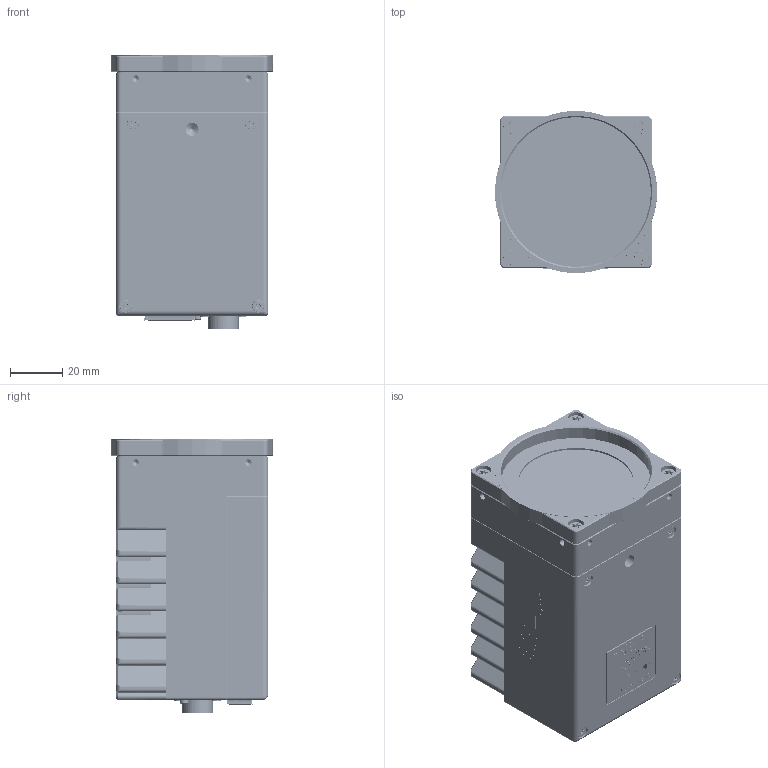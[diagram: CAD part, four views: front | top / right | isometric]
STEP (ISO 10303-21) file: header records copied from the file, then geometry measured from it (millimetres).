
FILE_DESCRIPTION (( 'STEP AP203' ), '1' );
FILE_NAME ('F004274-01001 HR927M100GE-M58.STEP', '2026-04-08T12:48:05', ( '' ), ( '' ), 'SwSTEP 2.0', 'SolidWorks 2025', '' );
FILE_SCHEMA (( 'CONFIG_CONTROL_DESIGN' ));
Length unit declared in the file: millimetre
Products named in the file (23): E007112-01001 Rückplatte Oberteil HR Titan Fertigteil - eloxiert und Laserbeschriftet; E004087-02001 Cover Glass K9 d46; E002086-00000 M2x3 FK; E007129-01001 Blech zur Glaskompensation 0,3mm HR92x; IMX927_Glass; Label 23 x 25 mm; IMX927_Frame; E007012-04001 Rückplatte unten QSFP schwarz eloxiert; E007105-01001 Frontplatte hr927 Flat-Front Fertigteil eloxiert; F002398-02001 BackEnd; N000078-00000 Schraube M3x8 Torx ISO14580; B004675-02001 Titan100G IO Piggy_E005470_gefaltet BG; E002082 Lichtleiter Mentor 1282.2000; E007014-02001 Schutzgitter für Lüfter 40 x 40 mm blech gelasert schwarz eloxiert; N000339-00000 Zylinderkopfschraube M2,5x18 Torx ISO14579 - A2 Edelstahl_M2x10; B004669-02001 Mainboard QSFP Titan100G_Mainboard_E005468; E007111-01001 HR92x Mount Adapter M58 Fertigteil eloxiert; F004274-01001 HR927M100GE-M58; IMX927_Base; IMX927_Sensor; E006544-01001 EoSens21 Kunststoffbuchse_d3_mit_Bund; N000230-00000 Senkkopfschraube Torx ISO14581 M2x18 - A2_M2x20; IMX927_Base_Connector
Assembly tree (33 placements, depth 4):
  F004274-01001 HR927M100GE-M58
    E007105-01001 Frontplatte hr927 Flat-Front Fertigteil eloxiert
    F002398-02001 BackEnd
      E007012-04001 Rückplatte unten QSFP schwarz eloxiert
      E006544-01001 EoSens21 Kunststoffbuchse_d3_mit_Bund  x4
      E007014-02001 Schutzgitter für Lüfter 40 x 40 mm blech gelasert schwarz eloxiert
      B004669-02001 Mainboard QSFP Titan100G_Mainboard_E005468
      E002082 Lichtleiter Mentor 1282.2000
      E002086-00000 M2x3 FK  x2
      B004675-02001 Titan100G IO Piggy_E005470_gefaltet BG
      Label 23 x 25 mm
      N000230-00000 Senkkopfschraube Torx ISO14581 M2x18 - A2_M2x20  x2
      N000339-00000 Zylinderkopfschraube M2,5x18 Torx ISO14579 - A2 Edelstahl_M2x10  x4
    E007112-01001 Rückplatte Oberteil HR Titan Fertigteil - eloxiert und Laserbeschriftet
    IMX927_Sensor
      IMX927_Frame
      IMX927_Base_Connector
        IMX927_Base
      IMX927_Glass
    E007111-01001 HR92x Mount Adapter M58 Fertigteil eloxiert
    N000078-00000 Schraube M3x8 Torx ISO14580  x4
    E007129-01001 Blech zur Glaskompensation 0,3mm HR92x
    E004087-02001 Cover Glass K9 d46
Bounding box: 62 x 62 x 104.22 mm (x, y, z)
Volume: 137676 mm3; surface area: 106132.1 mm2
Topology: 43 solids, 43 shells, 7001 faces, 19144 edges, 12573 vertices
Faces by surface type: plane 3459, cylinder 1770, bspline 1478, cone 225, torus 41, sphere 28
Full cylindrical faces by diameter (mm): 0.8 x36, 1 x2, 1.2 x12, 1.25 x3, 1.6 x14, 2 x9, 2.05 x16, 2.1 x2, 2.4 x2, 2.5 x16, 2.6 x4, 2.7 x4, 2.8 x1, 2.85 x1, 2.96 x4, 3 x8, 3.1 x4, 3.2 x1, 3.5 x2, 3.8 x2, 4 x2, 4.2 x4, 4.5 x4, 4.7 x4, 5 x13, 5.4 x4, 6 x4, 9 x1, 11 x1, 11.8 x1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
Entity records: 263206 total; most frequent: CARTESIAN_POINT 99777, ORIENTED_EDGE 35992, DIRECTION 28367, EDGE_CURVE 17996, VERTEX_POINT 12000, LINE 11357, VECTOR 11357, AXIS2_PLACEMENT_3D 8505
